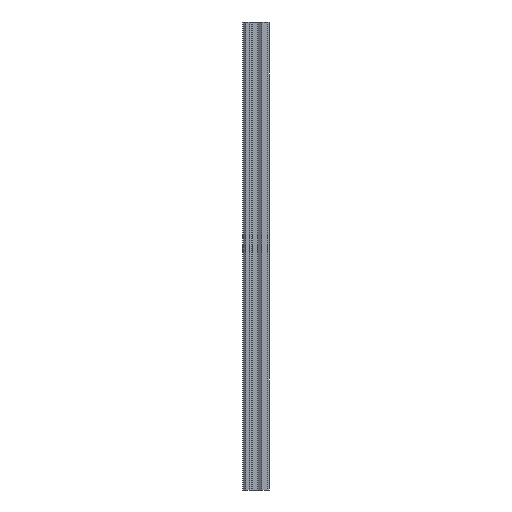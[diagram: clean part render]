
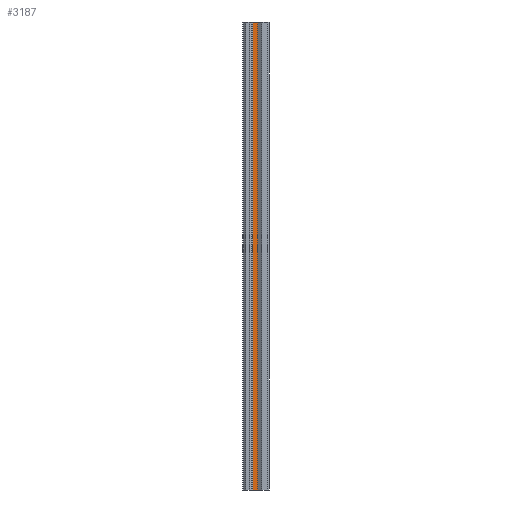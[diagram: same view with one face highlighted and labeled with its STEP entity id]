
A CAD part, left-side view. The second image highlights one B-rep face of the part: STEP entity #3187.
In plain terms, the highlighted planar face has unit normal (-1, 0, 0).
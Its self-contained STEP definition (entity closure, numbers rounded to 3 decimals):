
#140 = DIRECTION ( 'NONE',  ( 0., -1., 0. ) ) ;
#328 = CARTESIAN_POINT ( 'NONE',  ( 4.1, 13.886, -570. ) ) ;
#384 = FACE_OUTER_BOUND ( 'NONE', #1750, .T. ) ;
#570 = CARTESIAN_POINT ( 'NONE',  ( 4.1, 20.2, -570. ) ) ;
#740 = VECTOR ( 'NONE', #1614, 1000. ) ;
#861 = VERTEX_POINT ( 'NONE', #2574 ) ;
#997 = LINE ( 'NONE', #570, #4154 ) ;
#1026 = EDGE_CURVE ( 'NONE', #3624, #1820, #2052, .T. ) ;
#1032 = AXIS2_PLACEMENT_3D ( 'NONE', #2532, #2086, #1668 ) ;
#1174 = ORIENTED_EDGE ( 'NONE', *, *, #1026, .F. ) ;
#1210 = DIRECTION ( 'NONE',  ( 0., 0., 1. ) ) ;
#1538 = EDGE_CURVE ( 'NONE', #3624, #2470, #997, .T. ) ;
#1614 = DIRECTION ( 'NONE',  ( 0., -1., 0. ) ) ;
#1631 = CARTESIAN_POINT ( 'NONE',  ( 4.1, 20.2, -570. ) ) ;
#1668 = DIRECTION ( 'NONE',  ( 0., 0., 1. ) ) ;
#1750 = EDGE_LOOP ( 'NONE', ( #2651, #1174, #3481, #4125 ) ) ;
#1801 = EDGE_CURVE ( 'NONE', #1820, #861, #2471, .T. ) ;
#1820 = VERTEX_POINT ( 'NONE', #4101 ) ;
#2033 = CARTESIAN_POINT ( 'NONE',  ( 4.1, 20.2, 0. ) ) ;
#2052 = LINE ( 'NONE', #1631, #2931 ) ;
#2086 = DIRECTION ( 'NONE',  ( -1., 0., 0. ) ) ;
#2226 = DIRECTION ( 'NONE',  ( 0., 0., 1. ) ) ;
#2470 = VERTEX_POINT ( 'NONE', #328 ) ;
#2471 = LINE ( 'NONE', #2033, #740 ) ;
#2532 = CARTESIAN_POINT ( 'NONE',  ( 4.1, 20.2, -570. ) ) ;
#2574 = CARTESIAN_POINT ( 'NONE',  ( 4.1, 13.886, 0. ) ) ;
#2650 = CARTESIAN_POINT ( 'NONE',  ( 4.1, 13.886, -570. ) ) ;
#2651 = ORIENTED_EDGE ( 'NONE', *, *, #1801, .F. ) ;
#2931 = VECTOR ( 'NONE', #1210, 1000. ) ;
#2961 = PLANE ( 'NONE',  #1032 ) ;
#3086 = VECTOR ( 'NONE', #2226, 1000. ) ;
#3093 = LINE ( 'NONE', #2650, #3086 ) ;
#3187 = ADVANCED_FACE ( 'NONE', ( #384 ), #2961, .T. ) ;
#3289 = EDGE_CURVE ( 'NONE', #2470, #861, #3093, .T. ) ;
#3305 = CARTESIAN_POINT ( 'NONE',  ( 4.1, 20.2, -570. ) ) ;
#3481 = ORIENTED_EDGE ( 'NONE', *, *, #1538, .T. ) ;
#3624 = VERTEX_POINT ( 'NONE', #3305 ) ;
#4101 = CARTESIAN_POINT ( 'NONE',  ( 4.1, 20.2, 0. ) ) ;
#4125 = ORIENTED_EDGE ( 'NONE', *, *, #3289, .T. ) ;
#4154 = VECTOR ( 'NONE', #140, 1000. ) ;
